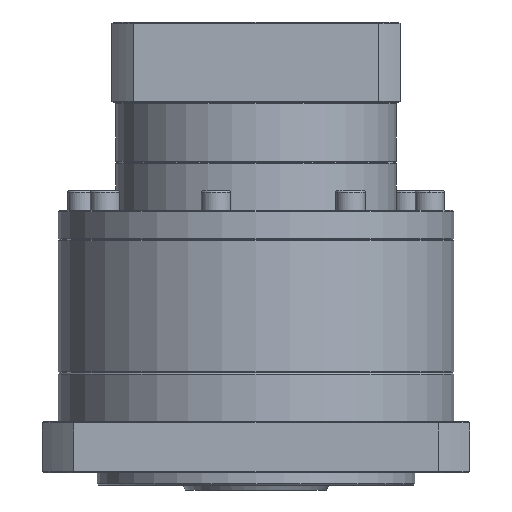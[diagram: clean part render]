
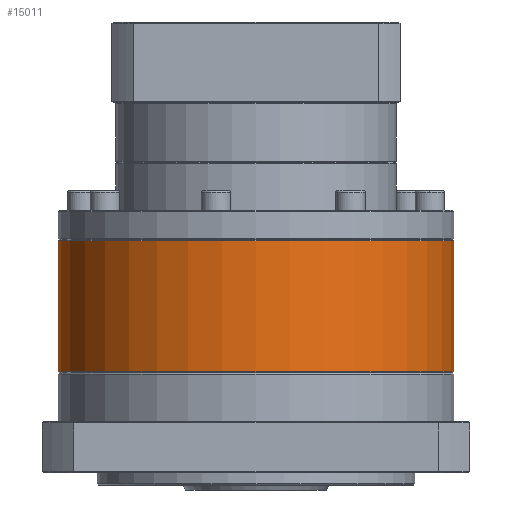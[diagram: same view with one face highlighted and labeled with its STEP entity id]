
A CAD part, front view. The second image highlights one B-rep face of the part: STEP entity #15011.
In plain terms, the highlighted cylindrical face has radius 81 mm (diameter 162 mm), a partial arc.
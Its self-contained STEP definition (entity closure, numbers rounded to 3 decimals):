
#1426 = DIRECTION ( 'NONE',  ( -1., 0., 0. ) ) ;
#2121 = DIRECTION ( 'NONE',  ( 0., 0., -1. ) ) ;
#8853 = VECTOR ( 'NONE', #66189, 1000. ) ;
#8882 = ORIENTED_EDGE ( 'NONE', *, *, #39802, .F. ) ;
#9240 = VERTEX_POINT ( 'NONE', #94477 ) ;
#9431 = ORIENTED_EDGE ( 'NONE', *, *, #38511, .F. ) ;
#11726 = CIRCLE ( 'NONE', #40021, 81. ) ;
#11985 = EDGE_CURVE ( 'NONE', #9240, #91496, #57435, .T. ) ;
#15011 = ADVANCED_FACE ( 'NONE', ( #99332 ), #31575, .T. ) ;
#17782 = AXIS2_PLACEMENT_3D ( 'NONE', #38542, #46339, #61826 ) ;
#19368 = CARTESIAN_POINT ( 'NONE',  ( 119.161, 0., 6.3 ) ) ;
#19559 = ORIENTED_EDGE ( 'NONE', *, *, #61847, .T. ) ;
#20978 = ORIENTED_EDGE ( 'NONE', *, *, #47232, .T. ) ;
#22714 = ORIENTED_EDGE ( 'NONE', *, *, #11985, .T. ) ;
#28252 = VECTOR ( 'NONE', #2121, 1000. ) ;
#30398 = CARTESIAN_POINT ( 'NONE',  ( -42.839, 0., 59.8 ) ) ;
#30557 = CARTESIAN_POINT ( 'NONE',  ( 38.161, 0., 60.3 ) ) ;
#31575 = CYLINDRICAL_SURFACE ( 'NONE', #96670, 81. ) ;
#33880 = EDGE_LOOP ( 'NONE', ( #9431, #19559, #22714, #20978, #8882 ) ) ;
#38511 = EDGE_CURVE ( 'NONE', #51974, #48156, #98514, .T. ) ;
#38542 = CARTESIAN_POINT ( 'NONE',  ( 38.161, 0., 59.8 ) ) ;
#39802 = EDGE_CURVE ( 'NONE', #48156, #97110, #48351, .T. ) ;
#40021 = AXIS2_PLACEMENT_3D ( 'NONE', #77944, #47481, #70130 ) ;
#43199 = CARTESIAN_POINT ( 'NONE',  ( 119.161, 0., 60.3 ) ) ;
#46339 = DIRECTION ( 'NONE',  ( 0., 0., -1. ) ) ;
#47232 = EDGE_CURVE ( 'NONE', #91496, #97110, #56119, .T. ) ;
#47481 = DIRECTION ( 'NONE',  ( 0., 0., -1. ) ) ;
#48156 = VERTEX_POINT ( 'NONE', #19368 ) ;
#48351 = CIRCLE ( 'NONE', #83569, 81. ) ;
#49873 = CARTESIAN_POINT ( 'NONE',  ( 119.161, 0., 59.8 ) ) ;
#51974 = VERTEX_POINT ( 'NONE', #49873 ) ;
#52573 = DIRECTION ( 'NONE',  ( 0., 0., -1. ) ) ;
#56119 = LINE ( 'NONE', #94907, #28252 ) ;
#57435 = CIRCLE ( 'NONE', #17782, 81. ) ;
#61826 = DIRECTION ( 'NONE',  ( -1., 0., 0. ) ) ;
#61847 = EDGE_CURVE ( 'NONE', #51974, #9240, #11726, .T. ) ;
#63703 = DIRECTION ( 'NONE',  ( 0., 0., -1. ) ) ;
#66189 = DIRECTION ( 'NONE',  ( 0., 0., -1. ) ) ;
#70130 = DIRECTION ( 'NONE',  ( -1., 0., 0. ) ) ;
#77944 = CARTESIAN_POINT ( 'NONE',  ( 38.161, 0., 59.8 ) ) ;
#83569 = AXIS2_PLACEMENT_3D ( 'NONE', #84498, #63703, #95252 ) ;
#84498 = CARTESIAN_POINT ( 'NONE',  ( 38.161, 0., 6.3 ) ) ;
#85411 = CARTESIAN_POINT ( 'NONE',  ( -42.839, 0., 6.3 ) ) ;
#91496 = VERTEX_POINT ( 'NONE', #30398 ) ;
#94477 = CARTESIAN_POINT ( 'NONE',  ( 38.161, -81., 59.8 ) ) ;
#94907 = CARTESIAN_POINT ( 'NONE',  ( -42.839, 0., 60.3 ) ) ;
#95252 = DIRECTION ( 'NONE',  ( 1., 0., 0. ) ) ;
#96670 = AXIS2_PLACEMENT_3D ( 'NONE', #30557, #52573, #1426 ) ;
#97110 = VERTEX_POINT ( 'NONE', #85411 ) ;
#98514 = LINE ( 'NONE', #43199, #8853 ) ;
#99332 = FACE_OUTER_BOUND ( 'NONE', #33880, .T. ) ;
